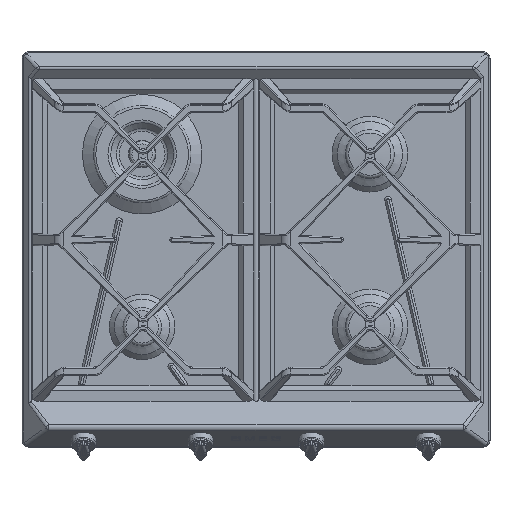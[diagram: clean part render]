
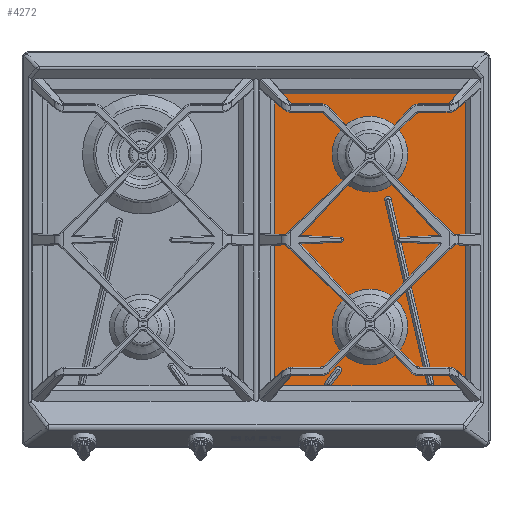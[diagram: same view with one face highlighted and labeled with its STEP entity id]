
A CAD part, top view. The second image highlights one B-rep face of the part: STEP entity #4272.
In plain terms, the highlighted planar face has unit normal (0, 0, 1).
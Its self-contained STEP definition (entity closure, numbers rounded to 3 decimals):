
#655=LINE('',#27152,#1931);
#656=LINE('',#27156,#1932);
#657=LINE('',#27160,#1933);
#658=LINE('',#27164,#1934);
#659=LINE('',#27169,#1935);
#660=LINE('',#27172,#1936);
#661=LINE('',#27174,#1937);
#662=LINE('',#27176,#1938);
#1931=VECTOR('',#20139,1.);
#1932=VECTOR('',#20142,1.);
#1933=VECTOR('',#20145,1.);
#1934=VECTOR('',#20148,1.);
#1935=VECTOR('',#20153,1.);
#1936=VECTOR('',#20154,1.);
#1937=VECTOR('',#20155,1.);
#1938=VECTOR('',#20156,1.);
#3947=FACE_BOUND('',#6756,.T.);
#3948=FACE_BOUND('',#6757,.T.);
#3949=FACE_BOUND('',#6758,.T.);
#3950=FACE_BOUND('',#6759,.T.);
#3951=FACE_BOUND('',#6760,.T.);
#4272=ADVANCED_FACE('',(#3947,#3948,#3949,#3950,#3951),#5212,.T.);
#5212=PLANE('',#17684);
#6756=EDGE_LOOP('',(#8483,#8484,#8485,#8486));
#6757=EDGE_LOOP('',(#8487,#8488,#8489,#8490));
#6758=EDGE_LOOP('',(#8491));
#6759=EDGE_LOOP('',(#8492));
#6760=EDGE_LOOP('',(#8493,#8494,#8495,#8496));
#8483=ORIENTED_EDGE('',*,*,#14556,.F.);
#8484=ORIENTED_EDGE('',*,*,#14557,.F.);
#8485=ORIENTED_EDGE('',*,*,#14558,.F.);
#8486=ORIENTED_EDGE('',*,*,#14559,.F.);
#8487=ORIENTED_EDGE('',*,*,#14560,.F.);
#8488=ORIENTED_EDGE('',*,*,#14561,.F.);
#8489=ORIENTED_EDGE('',*,*,#14562,.F.);
#8490=ORIENTED_EDGE('',*,*,#14563,.F.);
#8491=ORIENTED_EDGE('',*,*,#14564,.F.);
#8492=ORIENTED_EDGE('',*,*,#14565,.F.);
#8493=ORIENTED_EDGE('',*,*,#14566,.T.);
#8494=ORIENTED_EDGE('',*,*,#14567,.T.);
#8495=ORIENTED_EDGE('',*,*,#14568,.F.);
#8496=ORIENTED_EDGE('',*,*,#14569,.T.);
#12888=VERTEX_POINT('',#27150);
#12889=VERTEX_POINT('',#27151);
#12890=VERTEX_POINT('',#27153);
#12891=VERTEX_POINT('',#27155);
#12892=VERTEX_POINT('',#27158);
#12893=VERTEX_POINT('',#27159);
#12894=VERTEX_POINT('',#27161);
#12895=VERTEX_POINT('',#27163);
#12896=VERTEX_POINT('',#27166);
#12897=VERTEX_POINT('',#27168);
#12898=VERTEX_POINT('',#27170);
#12899=VERTEX_POINT('',#27171);
#12900=VERTEX_POINT('',#27173);
#12901=VERTEX_POINT('',#27175);
#14556=EDGE_CURVE('',#12888,#12889,#16782,.T.);
#14557=EDGE_CURVE('',#12890,#12888,#655,.T.);
#14558=EDGE_CURVE('',#12891,#12890,#16783,.T.);
#14559=EDGE_CURVE('',#12889,#12891,#656,.T.);
#14560=EDGE_CURVE('',#12892,#12893,#16784,.T.);
#14561=EDGE_CURVE('',#12894,#12892,#657,.T.);
#14562=EDGE_CURVE('',#12895,#12894,#16785,.T.);
#14563=EDGE_CURVE('',#12893,#12895,#658,.T.);
#14564=EDGE_CURVE('',#12896,#12896,#16786,.T.);
#14565=EDGE_CURVE('',#12897,#12897,#16787,.T.);
#14566=EDGE_CURVE('',#12898,#12899,#659,.T.);
#14567=EDGE_CURVE('',#12899,#12900,#660,.T.);
#14568=EDGE_CURVE('',#12901,#12900,#661,.T.);
#14569=EDGE_CURVE('',#12901,#12898,#662,.T.);
#16782=CIRCLE('',#17678,4.2);
#16783=CIRCLE('',#17679,4.2);
#16784=CIRCLE('',#17680,4.2);
#16785=CIRCLE('',#17681,4.2);
#16786=CIRCLE('',#17682,48.2);
#16787=CIRCLE('',#17683,48.2);
#17678=AXIS2_PLACEMENT_3D('',#27149,#20137,#20138);
#17679=AXIS2_PLACEMENT_3D('',#27154,#20140,#20141);
#17680=AXIS2_PLACEMENT_3D('',#27157,#20143,#20144);
#17681=AXIS2_PLACEMENT_3D('',#27162,#20146,#20147);
#17682=AXIS2_PLACEMENT_3D('',#27165,#20149,#20150);
#17683=AXIS2_PLACEMENT_3D('',#27167,#20151,#20152);
#17684=AXIS2_PLACEMENT_3D('',#27177,#20157,#20158);
#20137=DIRECTION('',(0.,0.,1.));
#20138=DIRECTION('',(1.,0.,0.));
#20139=DIRECTION('',(-0.588,-0.809,0.));
#20140=DIRECTION('',(0.,0.,1.));
#20141=DIRECTION('',(1.,0.,0.));
#20142=DIRECTION('',(0.588,0.809,0.));
#20143=DIRECTION('',(0.,0.,1.));
#20144=DIRECTION('',(1.,0.,0.));
#20145=DIRECTION('',(0.225,-0.974,0.));
#20146=DIRECTION('',(0.,0.,1.));
#20147=DIRECTION('',(1.,0.,0.));
#20148=DIRECTION('',(-0.225,0.974,0.));
#20149=DIRECTION('',(0.,0.,1.));
#20150=DIRECTION('',(1.,0.,0.));
#20151=DIRECTION('',(0.,0.,1.));
#20152=DIRECTION('',(1.,0.,0.));
#20153=DIRECTION('',(-1.,0.,0.));
#20154=DIRECTION('',(0.,-1.,0.));
#20155=DIRECTION('',(-1.,0.,0.));
#20156=DIRECTION('',(0.,1.,0.));
#20157=DIRECTION('',(0.,0.,1.));
#20158=DIRECTION('',(1.,0.,0.));
#27149=CARTESIAN_POINT('',(390.,80.5,13.));
#27150=CARTESIAN_POINT('',(386.602,82.969,13.));
#27151=CARTESIAN_POINT('',(393.398,78.031,13.));
#27152=CARTESIAN_POINT('',(399.298,100.443,13.));
#27153=CARTESIAN_POINT('',(399.298,100.443,13.));
#27154=CARTESIAN_POINT('',(402.696,97.975,13.));
#27155=CARTESIAN_POINT('',(406.094,95.506,13.));
#27156=CARTESIAN_POINT('',(393.398,78.031,13.));
#27157=CARTESIAN_POINT('',(520.2,80.5,13.));
#27158=CARTESIAN_POINT('',(516.108,79.555,13.));
#27159=CARTESIAN_POINT('',(524.292,81.445,13.));
#27160=CARTESIAN_POINT('',(462.007,313.891,13.));
#27161=CARTESIAN_POINT('',(462.007,313.891,13.));
#27162=CARTESIAN_POINT('',(466.099,314.836,13.));
#27163=CARTESIAN_POINT('',(470.192,315.781,13.));
#27164=CARTESIAN_POINT('',(524.292,81.445,13.));
#27165=CARTESIAN_POINT('',(443.,153.,13.));
#27166=CARTESIAN_POINT('',(491.2,153.,13.));
#27167=CARTESIAN_POINT('',(443.,373.,13.));
#27168=CARTESIAN_POINT('',(491.2,373.,13.));
#27169=CARTESIAN_POINT('',(0.,462.859,13.));
#27170=CARTESIAN_POINT('',(578.515,462.859,13.));
#27171=CARTESIAN_POINT('',(305.115,462.859,13.));
#27172=CARTESIAN_POINT('',(305.115,483.25,13.));
#27173=CARTESIAN_POINT('',(305.115,65.572,13.));
#27174=CARTESIAN_POINT('',(0.,65.572,13.));
#27175=CARTESIAN_POINT('',(578.515,65.572,13.));
#27176=CARTESIAN_POINT('',(578.515,31.75,13.));
#27177=CARTESIAN_POINT('',(0.,0.,13.));
